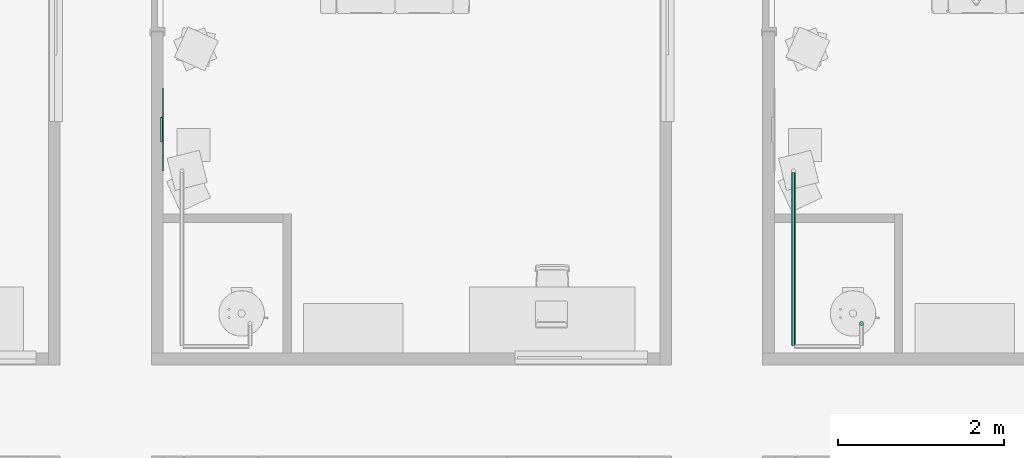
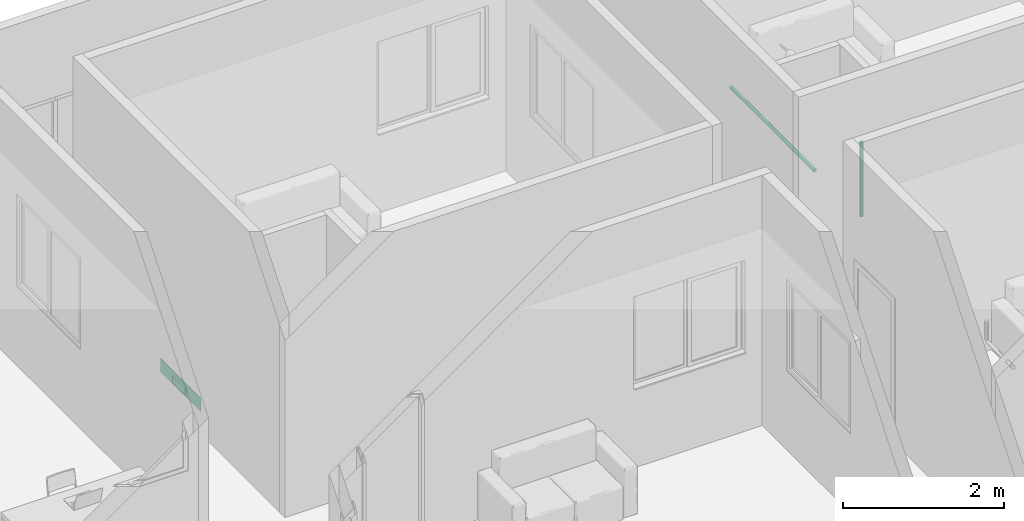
# One storey, part 39 of 71: 2 pipe segments, 1 air terminal.
"""IFC4 building model written with IfcOpenShell, lengths in centimetres."""

from ifc_helpers import new_model, entity, si_unit, converted_unit, derived_unit, direction, frame, origin, place, context, subcontext, project, spatial, arc, indexed_curve, outline, extrude, source, transform, mapped, material, constituent, constituent_set, type_object, type_shapes, element, save


model = new_model("IFC4")

# Units and contexts
model_context = context("Model", 3, precision=0.001, world=origin(), true_north=direction((6.123233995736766e-17, 1.0)))
body_context = subcontext(model_context, "Body", "Model", "MODEL_VIEW")
ifc_project = project(units=[si_unit("LENGTHUNIT", "METRE", prefix="CENTI"), si_unit("AREAUNIT", "SQUARE_METRE"), si_unit("VOLUMEUNIT", "CUBIC_METRE"), derived_unit("THERMALTRANSMITTANCEUNIT", [(si_unit("MASSUNIT", "GRAM", prefix="KILO"), 1), (si_unit("THERMODYNAMICTEMPERATUREUNIT", "KELVIN"), -1), (si_unit("TIMEUNIT", "SECOND"), -3)]), converted_unit("PLANEANGLEUNIT", "DEGREE", entity("IfcPlaneAngleMeasure", 0.017453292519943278), si_unit("PLANEANGLEUNIT", "RADIAN"), dimensions=[0, 0, 0, 0, 0, 0, 0]), derived_unit("MASSDENSITYUNIT", [(si_unit("MASSUNIT", "GRAM", prefix="KILO"), 1), (si_unit("LENGTHUNIT", "METRE"), -3)]), derived_unit("VAPORPERMEABILITYUNIT", [(si_unit("LENGTHUNIT", "METRE"), -1), (si_unit("TIMEUNIT", "SECOND"), 1)]), derived_unit("USERDEFINED", [(si_unit("MASSUNIT", "GRAM", prefix="KILO"), 1), (si_unit("TIMEUNIT", "SECOND"), -3), (si_unit("LENGTHUNIT", "METRE"), 3), (si_unit("ELECTRICCURRENTUNIT", "AMPERE"), -2)]), derived_unit("SPECIFICHEATCAPACITYUNIT", [(si_unit("THERMODYNAMICTEMPERATUREUNIT", "KELVIN"), -1), (si_unit("LENGTHUNIT", "METRE"), 2), (si_unit("TIMEUNIT", "SECOND"), -2)]), derived_unit("THERMALCONDUCTANCEUNIT", [(si_unit("MASSUNIT", "GRAM", prefix="KILO"), 1), (si_unit("THERMODYNAMICTEMPERATUREUNIT", "KELVIN"), -1), (si_unit("TIMEUNIT", "SECOND"), -3), (si_unit("LENGTHUNIT", "METRE"), 1)]), si_unit("PRESSUREUNIT", "PASCAL"), derived_unit("MODULUSOFELASTICITYUNIT", [(si_unit("MASSUNIT", "GRAM", prefix="KILO"), 1), (si_unit("LENGTHUNIT", "METRE"), -1), (si_unit("TIMEUNIT", "SECOND"), -2)]), derived_unit("THERMALEXPANSIONCOEFFICIENTUNIT", [(si_unit("THERMODYNAMICTEMPERATUREUNIT", "KELVIN"), -1)])], contexts=[model_context])

# Site, building, storey, space
site_placement = place(None, origin())
site = spatial("IfcSite", under=ifc_project, at=site_placement, Name="Default", CompositionType="ELEMENT")
building_placement = place(site_placement, origin())
building = spatial("IfcBuilding", under=site, at=building_placement, Name="IDS Escape Game Building", CompositionType="ELEMENT")
storey_placement = place(building_placement, frame((0.0, 0.0, 400.0)))
storey = spatial("IfcBuildingStorey", under=building, at=storey_placement, Name="01_First Floor", CompositionType="ELEMENT", Elevation=399.99999999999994)
space_placement = place(storey_placement, origin())
space = spatial("IfcSpace", under=storey, at=space_placement, Name="69", CompositionType="ELEMENT", PredefinedType="NOTDEFINED")

# Air terminal
ifc_material_1 = material(Name="TB_LVC_referentievlak_00_gen_BERSnl", Category="BE Default")
ifc_constituent_1 = constituent(ifc_material_1, Name="TB_LVC_referentievlak_00_gen_BERSnl", Category="BE Default", fraction=0.00014157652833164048)
ifc_material_2 = material(Name="ARC_FME.h2_staal_00_gen_BERSnl", Category="h - metaal")
ifc_constituent_2 = constituent(ifc_material_2, Name="ARC_FME.h2_staal_00_gen_BERSnl", Category="h - metaal", fraction=0.9998584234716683)
ifc_constituent_set_1 = constituent_set(constituents=[ifc_constituent_1, ifc_constituent_2])
ifc_constituent_3 = constituent(ifc_material_1, Name="BE Referentievlak", Category="BE Default", fraction=0.00014157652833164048)
ifc_constituent_4 = constituent(ifc_material_2, Name="Terminals", Category="h - metaal", fraction=0.9998584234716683)
ifc_constituent_set_2 = constituent_set(constituents=[ifc_constituent_3, ifc_constituent_4])
air_terminal_type = type_object("IfcAirTerminalType", Name="TB_57_AIR_FB_aanzuigrooster - 1 rechthoekige aansluiting - calculated flow_gen_BERSnl:Air Terminal - Exhaust", PredefinedType="GRILLE", material=ifc_constituent_set_2)
shared_shape = source(origin(), body_context, "Body", "SweptSolid", [
    extrude(outline(indexed_curve([(-0.5, -2.0290176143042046e-15), (6.8507733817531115e-16, -0.5000000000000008), (0.5, 2.0290176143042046e-15), (-5.361679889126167e-16, 0.49999999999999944)], segments=[arc(1, 2, 3), arc(3, 4, 1)], self_intersect=False)), frame((0.0, 0.0, 0.0), z_axis=(1.7453292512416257e-05, 0.0, 1.0), x_axis=(0.0, 1.0, 0.0)), (0.0, 0.0, 1.0), 0.09999999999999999),
    extrude(outline(indexed_curve([(-14.900000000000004, -4.9), (14.900000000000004, -4.9), (14.900000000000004, 4.9), (-14.900000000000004, 4.9), (-14.900000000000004, -4.9)], self_intersect=False)), frame((-4.886921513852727e-05, 0.0, -2.7999999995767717)), (0.0, 0.0, 1.0), 2.7999999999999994),
    extrude(outline(indexed_curve([(-50.0, -10.0), (50.0, -10.0), (50.0, 10.0), (-50.0, 10.0), (-50.0, -10.0)], self_intersect=False)), frame((0.0, 0.0, 0.0), z_axis=(0.0, 0.0, 1.0), x_axis=(-1.0, 0.0, 0.0)), (0.0, 0.0, 1.0), 0.6999999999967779),
])
type_shapes(air_terminal_type, [shared_shape])
air_terminal_placement = place(space_placement, frame((3697.0, 2835.0, 24.0), z_axis=(1.0, 0.0, 0.0), x_axis=(0.0, 1.0, 0.0)))
element("IfcAirTerminal", 1, at=air_terminal_placement, inside=space, type_object=air_terminal_type, material=ifc_constituent_set_1, Name="TB_57_AIR_FB_aanzuigrooster - 1 rechthoekige aansluiting - calculated flow_gen_BERSnl:Air Terminal - Exhaust", ObjectType="TB_57_AIR_FB_aanzuigrooster - 1 rechthoekige aansluiting - calculated flow_gen_BERSnl:Air Terminal - Exhaust", PredefinedType="GRILLE", context=body_context, shape_type="MappedRepresentation", body=[
    mapped(shared_shape, transform((0.0, 0.0, 0.0), scale=1.0)),
])

# Pipe segments
pipe_segment_type = type_object("IfcPipeSegmentType", Name="Pipe Types:Piping Aluminum", PredefinedType="NOTDEFINED")
pipe_segment_1_placement = place(storey_placement, origin())
element("IfcPipeSegment", 2, at=pipe_segment_1_placement, inside=storey, type_object=pipe_segment_type, Name="Pipe Types:Piping Aluminum", ObjectType="Pipe Types:Piping Aluminum", PredefinedType="NOTDEFINED", context=body_context, shape_type="SweptSolid", body=[
    extrude(outline(indexed_curve([(2.4130000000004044, 0.0), (1.7062486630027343, 1.7062486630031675), (0.0, 2.412999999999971), (-1.7062486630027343, 1.7062486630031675), (-2.4130000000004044, 0.0), (-1.7062486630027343, -1.7062486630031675), (0.0, -2.412999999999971), (1.7062486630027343, -1.7062486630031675)], segments=[arc(1, 2, 3), arc(3, 4, 5), arc(5, 6, 7), arc(7, 8, 1)], self_intersect=False)), frame((4540.150000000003, 2600.9000000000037, 128.0), z_axis=(0.0, 0.0, 1.0), x_axis=(-1.0, 0.0, 0.0)), (0.0, 0.0, 1.0), 112.90000000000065),
])
pipe_segment_2_placement = place(storey_placement, origin())
element("IfcPipeSegment", 3, at=pipe_segment_2_placement, inside=storey, type_object=pipe_segment_type, Name="Pipe Types:Piping Aluminum", ObjectType="Pipe Types:Piping Aluminum", PredefinedType="NOTDEFINED", context=body_context, shape_type="SweptSolid", body=[
    extrude(outline(indexed_curve([(2.4130000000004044, 0.0), (1.7062486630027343, 1.7062486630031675), (0.0, 2.412999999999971), (-1.7062486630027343, 1.7062486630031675), (-2.4130000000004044, 0.0), (-1.7062486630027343, -1.7062486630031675), (0.0, -2.412999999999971), (1.7062486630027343, -1.7062486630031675)], segments=[arc(1, 2, 3), arc(3, 4, 5), arc(5, 6, 7), arc(7, 8, 1)], self_intersect=False)), frame((4458.046716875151, 2574.3648279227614, 242.0), z_axis=(0.0, 1.0, 0.0), x_axis=(1.0, 0.0, 0.0)), (0.0, 0.0, 1.0), 208.80000000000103),
])

save(model, "model.ifc")
